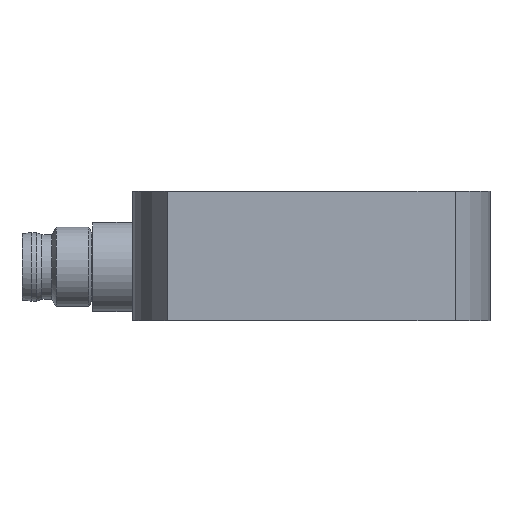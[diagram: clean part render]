
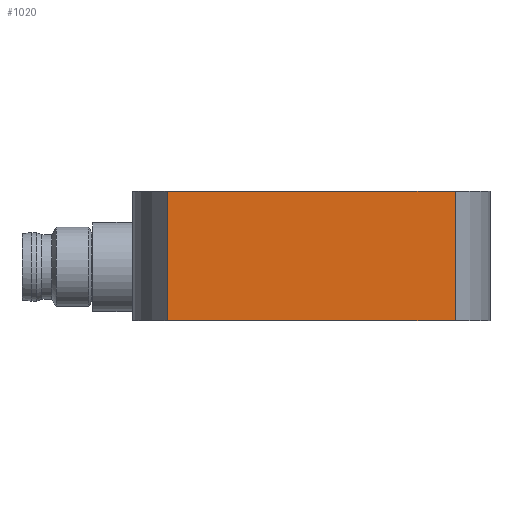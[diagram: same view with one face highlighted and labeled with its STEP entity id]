
A CAD part, left-side view. The second image highlights one B-rep face of the part: STEP entity #1020.
In plain terms, the highlighted planar face has unit normal (-1, 0, 0) as drawn and (0, 0, 1) by its records, which use the part's own axes.
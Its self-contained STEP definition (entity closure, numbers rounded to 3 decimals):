
#53=LINE('',#1429,#107);
#62=LINE('',#1469,#116);
#64=LINE('',#1472,#118);
#65=LINE('',#1474,#119);
#107=VECTOR('',#1184,1000.);
#116=VECTOR('',#1219,1000.);
#118=VECTOR('',#1223,1000.);
#119=VECTOR('',#1224,1000.);
#185=ORIENTED_EDGE('',*,*,#372,.T.);
#186=ORIENTED_EDGE('',*,*,#373,.F.);
#187=ORIENTED_EDGE('',*,*,#352,.F.);
#188=ORIENTED_EDGE('',*,*,#370,.T.);
#352=EDGE_CURVE('',#446,#447,#53,.T.);
#370=EDGE_CURVE('',#446,#464,#62,.T.);
#372=EDGE_CURVE('',#464,#465,#64,.T.);
#373=EDGE_CURVE('',#447,#465,#65,.T.);
#446=VERTEX_POINT('',#1428);
#447=VERTEX_POINT('',#1430);
#464=VERTEX_POINT('',#1468);
#465=VERTEX_POINT('',#1473);
#566=EDGE_LOOP('',(#185,#186,#187,#188));
#654=FACE_BOUND('',#566,.T.);
#732=PLANE('',#1096);
#1020=ADVANCED_FACE('',(#654),#732,.F.);
#1096=AXIS2_PLACEMENT_3D('',#1471,#1221,#1222);
#1184=DIRECTION('',(0.,-1.,0.));
#1219=DIRECTION('',(-1.,0.,0.));
#1221=DIRECTION('',(0.,0.,-1.));
#1222=DIRECTION('',(-1.,0.,0.));
#1223=DIRECTION('',(0.,-1.,0.));
#1224=DIRECTION('',(-1.,0.,0.));
#1428=CARTESIAN_POINT('',(6.5,32.49,26.));
#1429=CARTESIAN_POINT('',(6.5,32.49,26.));
#1430=CARTESIAN_POINT('',(6.5,3.51,26.));
#1468=CARTESIAN_POINT('',(-6.5,32.49,26.));
#1469=CARTESIAN_POINT('',(6.5,32.49,26.));
#1471=CARTESIAN_POINT('',(6.5,32.49,26.));
#1472=CARTESIAN_POINT('',(-6.5,32.49,26.));
#1473=CARTESIAN_POINT('',(-6.5,3.51,26.));
#1474=CARTESIAN_POINT('',(6.5,3.51,26.));
